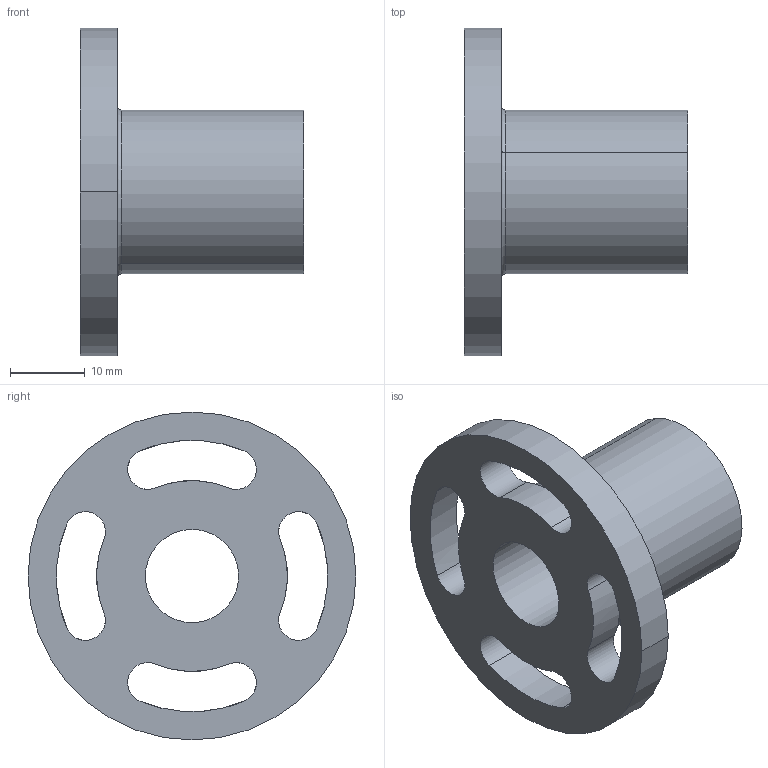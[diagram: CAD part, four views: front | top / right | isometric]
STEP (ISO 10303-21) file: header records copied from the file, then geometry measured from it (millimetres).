
FILE_DESCRIPTION(('CATIA V5 STEP Exchange'),'2;1');
FILE_NAME('C:\Users\aa\Documents\이댈\TM\CTM\CTM12.stp','2020-03-26T08:58:49+00:00',('none'),('none'),'CATIA Version 5 Release 20 SP 7 (IN-10)','CATIA V5 STEP AP203','none');
FILE_SCHEMA(('CONFIG_CONTROL_DESIGN'));
Length unit declared in the file: millimetre
Products named in the file (1): CTM12
Bounding box: 30 x 44 x 44 mm (x, y, z)
Volume: 11655.4 mm3; surface area: 6495.2 mm2
Topology: 1 solids, 1 shells, 27 faces, 70 edges, 46 vertices
Faces by surface type: cylinder 22, plane 3, torus 2
Entity records: 1110 total; most frequent: CARTESIAN_POINT 428, ORIENTED_EDGE 140, DIRECTION 102, EDGE_CURVE 70, AXIS2_PLACEMENT_3D 54, VERTEX_POINT 46, EDGE_LOOP 38, ADVANCED_FACE 27
